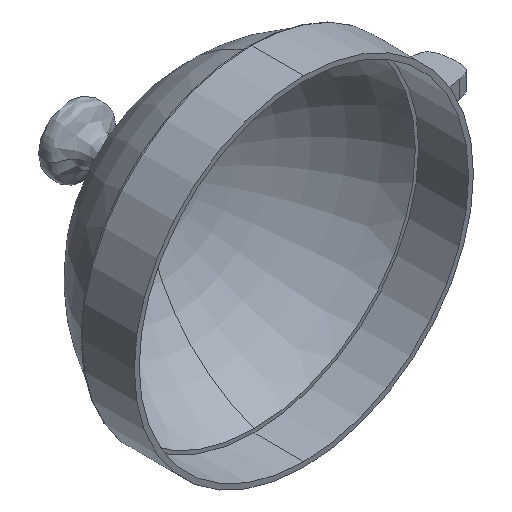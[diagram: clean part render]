
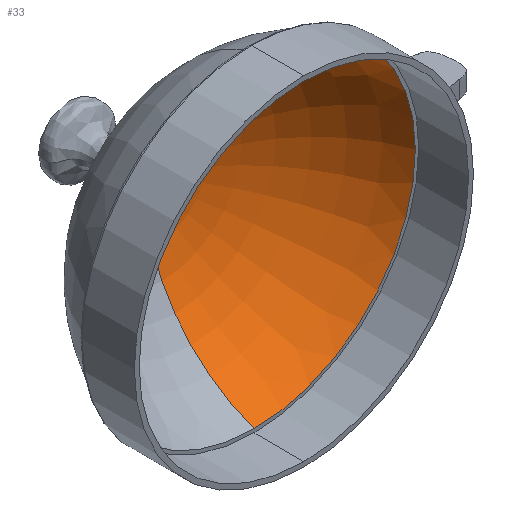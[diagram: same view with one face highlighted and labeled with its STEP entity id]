
A CAD part, isometric view. The second image highlights one B-rep face of the part: STEP entity #33.
In plain terms, the highlighted toroidal (fillet/blend) face has major radius 3.323 mm and minor radius 86.36 mm.
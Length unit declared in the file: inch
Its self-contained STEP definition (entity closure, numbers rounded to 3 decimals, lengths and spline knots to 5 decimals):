
#26 = DIRECTION ( 'NONE',  ( 0., 1., 0. ) ) ;
#33 = ADVANCED_FACE ( 'NONE', ( #706 ), #922, .F. ) ;
#73 = ORIENTED_EDGE ( 'NONE', *, *, #100, .T. ) ;
#75 = ORIENTED_EDGE ( 'NONE', *, *, #1557, .T. ) ;
#100 = EDGE_CURVE ( 'NONE', #829, #126, #496, .T. ) ;
#126 = VERTEX_POINT ( 'NONE', #1555 ) ;
#142 = DIRECTION ( 'NONE',  ( 0., 0., 1. ) ) ;
#174 = CARTESIAN_POINT ( 'NONE',  ( 0., 3.28, 0.13083 ) ) ;
#195 = AXIS2_PLACEMENT_3D ( 'NONE', #1232, #26, #142 ) ;
#220 = DIRECTION ( 'NONE',  ( 0., -1., 0. ) ) ;
#249 = AXIS2_PLACEMENT_3D ( 'NONE', #654, #644, #634 ) ;
#290 = VERTEX_POINT ( 'NONE', #503 ) ;
#325 = VERTEX_POINT ( 'NONE', #413 ) ;
#340 = DIRECTION ( 'NONE',  ( 0., 1., 0. ) ) ;
#344 = AXIS2_PLACEMENT_3D ( 'NONE', #815, #340, #1194 ) ;
#356 = DIRECTION ( 'NONE',  ( 1., 0., 0. ) ) ;
#412 = ORIENTED_EDGE ( 'NONE', *, *, #1441, .F. ) ;
#413 = CARTESIAN_POINT ( 'NONE',  ( 0., 1.03, 3.33044 ) ) ;
#453 = DIRECTION ( 'NONE',  ( 0., 0., -1. ) ) ;
#496 = CIRCLE ( 'NONE', #344, 0.13083 ) ;
#503 = CARTESIAN_POINT ( 'NONE',  ( 0., 1.03, -3.33044 ) ) ;
#588 = CARTESIAN_POINT ( 'NONE',  ( 0., -0.12, 0. ) ) ;
#608 = ORIENTED_EDGE ( 'NONE', *, *, #658, .F. ) ;
#634 = DIRECTION ( 'NONE',  ( 0., 0., 1. ) ) ;
#644 = DIRECTION ( 'NONE',  ( -1., 0., 0. ) ) ;
#654 = CARTESIAN_POINT ( 'NONE',  ( 0., -0.12, -0.13083 ) ) ;
#658 = EDGE_CURVE ( 'NONE', #829, #325, #1132, .T. ) ;
#706 = FACE_OUTER_BOUND ( 'NONE', #1300, .T. ) ;
#733 = DIRECTION ( 'NONE',  ( 0., 0., -1. ) ) ;
#815 = CARTESIAN_POINT ( 'NONE',  ( 0., 3.28, 0. ) ) ;
#829 = VERTEX_POINT ( 'NONE', #174 ) ;
#922 = TOROIDAL_SURFACE ( 'NONE', #1180, 0.13083, 3.4 ) ;
#1034 = CIRCLE ( 'NONE', #195, 3.33044 ) ;
#1132 = CIRCLE ( 'NONE', #1468, 3.4 ) ;
#1180 = AXIS2_PLACEMENT_3D ( 'NONE', #588, #220, #453 ) ;
#1194 = DIRECTION ( 'NONE',  ( 0., 0., -1. ) ) ;
#1232 = CARTESIAN_POINT ( 'NONE',  ( 0., 1.03, 0. ) ) ;
#1233 = CARTESIAN_POINT ( 'NONE',  ( 0., -0.12, 0.13083 ) ) ;
#1300 = EDGE_LOOP ( 'NONE', ( #608, #73, #75, #412 ) ) ;
#1431 = CIRCLE ( 'NONE', #249, 3.4 ) ;
#1441 = EDGE_CURVE ( 'NONE', #325, #290, #1034, .T. ) ;
#1468 = AXIS2_PLACEMENT_3D ( 'NONE', #1233, #356, #733 ) ;
#1555 = CARTESIAN_POINT ( 'NONE',  ( 0., 3.28, -0.13083 ) ) ;
#1557 = EDGE_CURVE ( 'NONE', #126, #290, #1431, .T. ) ;
